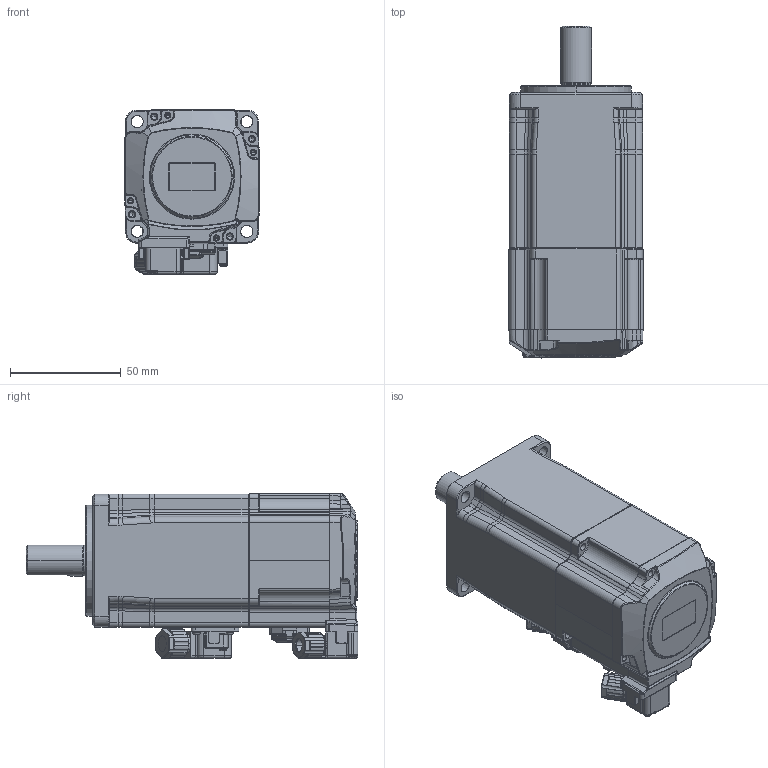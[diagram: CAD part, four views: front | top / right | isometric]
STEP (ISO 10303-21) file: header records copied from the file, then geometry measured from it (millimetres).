
FILE_DESCRIPTION((''),'2;1');
FILE_NAME('ECM-B3H-CX0604SB1_ASM','2024-01-17T20:10:13',('TED.FANG'),(''),'CREO PARAMETRIC BY PTC INC, 2020454','CREO PARAMETRIC BY PTC INC, 2020454','');
FILE_SCHEMA(('CONFIG_CONTROL_DESIGN'));
Products named in the file (5): ECM-B3H-C20604SB1_202_SW0001_1; PLUG-MCSCREWTYPE7S-0506_2_1; PLUG-MTSCREWTYPE7A6S_T0_2_1; ASM0004_ASM_1_ASM; ECM-B3H-CX0604SB1_ASM
Assembly tree (4 placements, depth 3):
  ECM-B3H-CX0604SB1_ASM
    ASM0004_ASM_1_ASM
      ECM-B3H-C20604SB1_202_SW0001_1
      PLUG-MCSCREWTYPE7S-0506_2_1
      PLUG-MTSCREWTYPE7A6S_T0_2_1
Bounding box: 60.6 x 149.65 x 74.4 mm (x, y, z)
Volume: 395116.8 mm3; surface area: 45055.8 mm2
Topology: 3 solids, 3 shells, 2963 faces, 7779 edges, 4893 vertices
Faces by surface type: plane 1056, cylinder 952, torus 329, bspline 233, extrusion 222, cone 139, sphere 32
Entity records: 112529 total; most frequent: CARTESIAN_POINT 42283, ORIENTED_EDGE 15458, DIRECTION 13450, EDGE_CURVE 7729, VERTEX_POINT 4893, AXIS2_PLACEMENT_3D 4738, VECTOR 3974, LINE 3752
